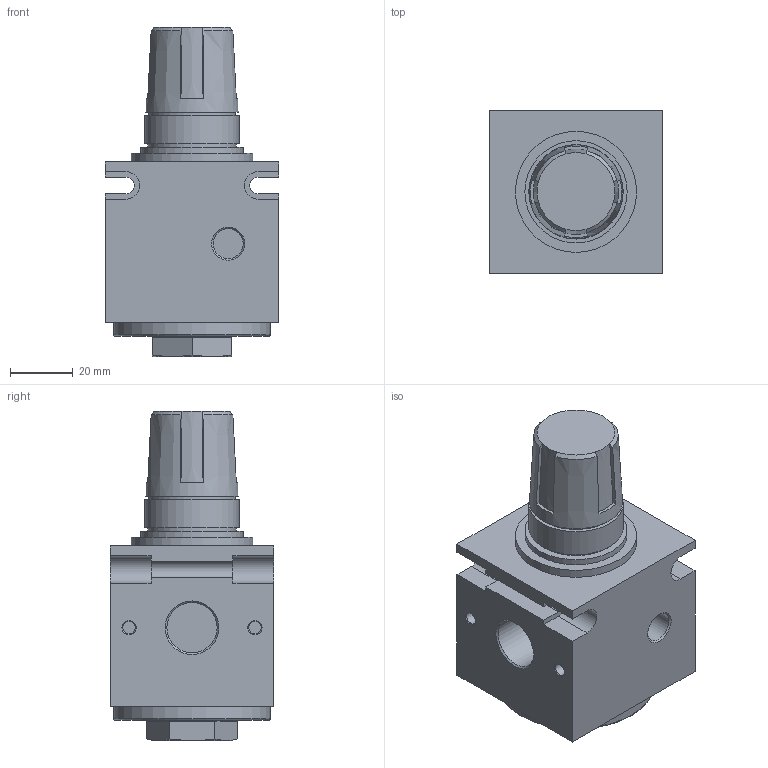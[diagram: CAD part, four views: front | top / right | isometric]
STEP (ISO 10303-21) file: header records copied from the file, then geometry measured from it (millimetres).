
FILE_DESCRIPTION((''),'2;1');
FILE_NAME('U:\AirCom-Produktdokumentation\Druckregler\R75\Zeichnungen\CAD-Aircom\3D\B-R75-03x.stp','2012-02-15T14:55:54',('frank schroers'),(''),'Autodesk Inventor 2008','Autodesk Inventor 2008','');
FILE_SCHEMA(('AUTOMOTIVE_DESIGN { 1 0 10303 214 1 1 1 1 }'));
Length unit declared in the file: millimetre
Products named in the file (1): B-R75-03x
Bounding box: 55 x 52 x 104.55 mm (x, y, z)
Volume: 172973.2 mm3; surface area: 25787 mm2
Topology: 1 solids, 1 shells, 103 faces, 232 edges, 147 vertices
Faces by surface type: plane 58, cylinder 26, cone 18, torus 1
Full cylindrical faces by diameter (mm): 4 x4, 9.5 x2, 16 x2, 27.6 x1, 28 x1, 30 x1, 32.5 x1, 38.5 x1, 49.8 x1
Entity records: 2736 total; most frequent: DIRECTION 484, CARTESIAN_POINT 466, ORIENTED_EDGE 410, EDGE_CURVE 205, AXIS2_PLACEMENT_3D 181, VERTEX_POINT 145, EDGE_LOOP 144, VECTOR 122
